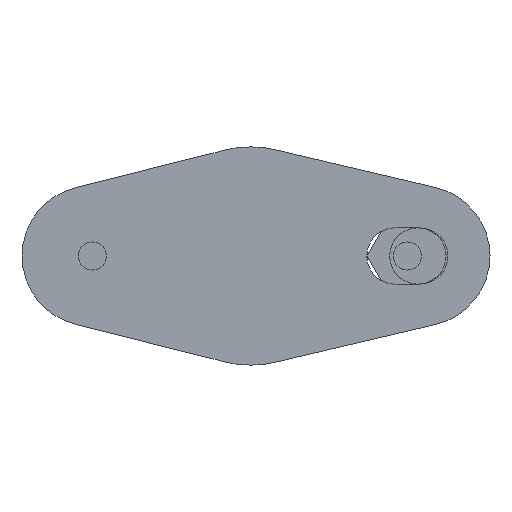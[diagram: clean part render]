
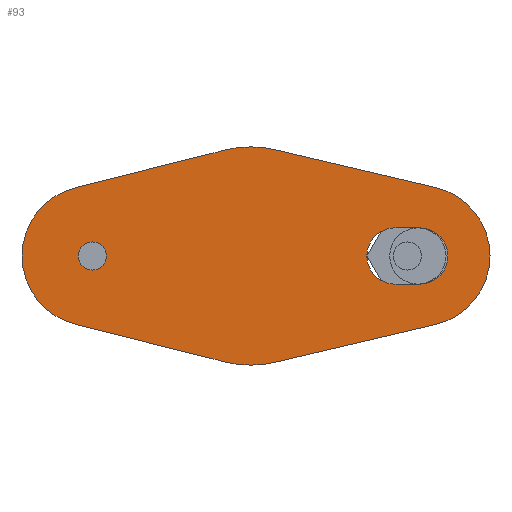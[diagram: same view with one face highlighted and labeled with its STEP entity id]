
A CAD part, front view. The second image highlights one B-rep face of the part: STEP entity #93.
In plain terms, the highlighted planar face has unit normal (0, -1, 0).
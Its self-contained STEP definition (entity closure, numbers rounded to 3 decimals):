
#93=ADVANCED_FACE('',(#179,#180,#181),#182,.F.);
#179=FACE_OUTER_BOUND('',#335,.T.);
#180=FACE_BOUND('',#336,.T.);
#181=FACE_BOUND('',#337,.T.);
#182=PLANE('',#338);
#335=EDGE_LOOP('',(#552,#553,#554,#555,#556,#557,#558,#559,#560,#561));
#336=EDGE_LOOP('',(#562,#563));
#337=EDGE_LOOP('',(#564,#565,#566,#567));
#338=AXIS2_PLACEMENT_3D('',#568,#569,#570);
#552=ORIENTED_EDGE('',*,*,#1067,.F.);
#553=ORIENTED_EDGE('',*,*,#1068,.F.);
#554=ORIENTED_EDGE('',*,*,#1069,.F.);
#555=ORIENTED_EDGE('',*,*,#1070,.F.);
#556=ORIENTED_EDGE('',*,*,#1021,.F.);
#557=ORIENTED_EDGE('',*,*,#1071,.F.);
#558=ORIENTED_EDGE('',*,*,#1072,.F.);
#559=ORIENTED_EDGE('',*,*,#1073,.F.);
#560=ORIENTED_EDGE('',*,*,#1074,.F.);
#561=ORIENTED_EDGE('',*,*,#1051,.F.);
#562=ORIENTED_EDGE('',*,*,#1028,.F.);
#563=ORIENTED_EDGE('',*,*,#1075,.F.);
#564=ORIENTED_EDGE('',*,*,#1076,.T.);
#565=ORIENTED_EDGE('',*,*,#1077,.T.);
#566=ORIENTED_EDGE('',*,*,#1078,.T.);
#567=ORIENTED_EDGE('',*,*,#1079,.T.);
#568=CARTESIAN_POINT('',(45.0,0.0,0.0));
#569=DIRECTION('',(-0.0,1.0,0.0));
#570=DIRECTION('',(1.0,0.0,0.0));
#1021=EDGE_CURVE('',#1188,#1191,#1192,.T.);
#1028=EDGE_CURVE('',#1204,#1205,#1206,.T.);
#1051=EDGE_CURVE('',#1246,#1248,#1249,.T.);
#1067=EDGE_CURVE('',#1275,#1246,#1276,.T.);
#1068=EDGE_CURVE('',#1277,#1275,#1278,.T.);
#1069=EDGE_CURVE('',#1279,#1277,#1280,.T.);
#1070=EDGE_CURVE('',#1191,#1279,#1281,.T.);
#1071=EDGE_CURVE('',#1282,#1188,#1283,.T.);
#1072=EDGE_CURVE('',#1284,#1282,#1285,.T.);
#1073=EDGE_CURVE('',#1286,#1284,#1287,.T.);
#1074=EDGE_CURVE('',#1248,#1286,#1288,.T.);
#1075=EDGE_CURVE('',#1205,#1204,#1289,.T.);
#1076=EDGE_CURVE('',#1290,#1291,#1292,.T.);
#1077=EDGE_CURVE('',#1291,#1293,#1294,.T.);
#1078=EDGE_CURVE('',#1293,#1295,#1296,.T.);
#1079=EDGE_CURVE('',#1295,#1290,#1297,.T.);
#1188=VERTEX_POINT('',#1466);
#1191=VERTEX_POINT('',#1470);
#1192=CIRCLE('',#1471,31.0);
#1204=VERTEX_POINT('',#1486);
#1205=VERTEX_POINT('',#1487);
#1206=CIRCLE('',#1488,4.0);
#1246=VERTEX_POINT('',#1540);
#1248=VERTEX_POINT('',#1543);
#1249=CIRCLE('',#1544,31.0);
#1275=VERTEX_POINT('',#1577);
#1276=CIRCLE('',#1578,31.0);
#1277=VERTEX_POINT('',#1579);
#1278=LINE('',#1580,#1581);
#1279=VERTEX_POINT('',#1582);
#1280=CIRCLE('',#1583,20.0);
#1281=LINE('',#1584,#1585);
#1282=VERTEX_POINT('',#1586);
#1283=CIRCLE('',#1587,31.0);
#1284=VERTEX_POINT('',#1588);
#1285=LINE('',#1589,#1590);
#1286=VERTEX_POINT('',#1591);
#1287=CIRCLE('',#1592,20.0);
#1288=LINE('',#1593,#1594);
#1289=CIRCLE('',#1595,4.0);
#1290=VERTEX_POINT('',#1596);
#1291=VERTEX_POINT('',#1597);
#1292=CIRCLE('',#1598,8.0);
#1293=VERTEX_POINT('',#1599);
#1294=LINE('',#1600,#1601);
#1295=VERTEX_POINT('',#1602);
#1296=CIRCLE('',#1603,8.0);
#1297=LINE('',#1604,#1605);
#1466=CARTESIAN_POINT('',(45.0,0.0,31.0));
#1470=CARTESIAN_POINT('',(52.104,0.0,30.175));
#1471=AXIS2_PLACEMENT_3D('',#1863,#1864,#1865);
#1486=CARTESIAN_POINT('',(0.0,0.0,-4.0));
#1487=CARTESIAN_POINT('',(0.,0.0,4.0));
#1488=AXIS2_PLACEMENT_3D('',#1878,#1879,#1880);
#1540=CARTESIAN_POINT('',(45.0,0.0,-31.0));
#1543=CARTESIAN_POINT('',(37.422,0.0,-30.06));
#1544=AXIS2_PLACEMENT_3D('',#1921,#1922,#1923);
#1577=CARTESIAN_POINT('',(52.104,0.0,-30.175));
#1578=AXIS2_PLACEMENT_3D('',#1955,#1956,#1957);
#1579=CARTESIAN_POINT('',(97.583,0.0,-19.468));
#1580=CARTESIAN_POINT('',(52.104,0.0,-30.175));
#1581=VECTOR('',#1958,1000.0);
#1582=CARTESIAN_POINT('',(97.583,0.0,19.468));
#1583=AXIS2_PLACEMENT_3D('',#1959,#1960,#1961);
#1584=CARTESIAN_POINT('',(52.104,0.0,30.175));
#1585=VECTOR('',#1962,1000.0);
#1586=CARTESIAN_POINT('',(37.422,0.0,30.06));
#1587=AXIS2_PLACEMENT_3D('',#1963,#1964,#1965);
#1588=CARTESIAN_POINT('',(-4.889,0.0,19.393));
#1589=CARTESIAN_POINT('',(37.422,0.0,30.06));
#1590=VECTOR('',#1966,1000.0);
#1591=CARTESIAN_POINT('',(-4.889,0.0,-19.393));
#1592=AXIS2_PLACEMENT_3D('',#1967,#1968,#1969);
#1593=CARTESIAN_POINT('',(37.422,0.0,-30.06));
#1594=VECTOR('',#1970,1000.0);
#1595=AXIS2_PLACEMENT_3D('',#1971,#1972,#1973);
#1596=CARTESIAN_POINT('',(86.0,0.0,-8.0));
#1597=CARTESIAN_POINT('',(86.0,0.0,8.0));
#1598=AXIS2_PLACEMENT_3D('',#1974,#1975,#1976);
#1599=CARTESIAN_POINT('',(93.0,0.0,8.0));
#1600=CARTESIAN_POINT('',(86.0,0.0,8.0));
#1601=VECTOR('',#1977,1000.0);
#1602=CARTESIAN_POINT('',(93.0,0.0,-8.0));
#1603=AXIS2_PLACEMENT_3D('',#1978,#1979,#1980);
#1604=CARTESIAN_POINT('',(86.0,0.0,-8.0));
#1605=VECTOR('',#1981,1000.0);
#1863=CARTESIAN_POINT('',(45.0,0.0,0.0));
#1864=DIRECTION('',(0.0,1.0,0.0));
#1865=DIRECTION('',(0.0,0.0,1.0));
#1878=CARTESIAN_POINT('',(0.0,0.0,0.0));
#1879=DIRECTION('',(0.0,-1.0,0.0));
#1880=DIRECTION('',(0.0,0.0,1.0));
#1921=CARTESIAN_POINT('',(45.0,0.0,0.0));
#1922=DIRECTION('',(0.0,1.0,0.0));
#1923=DIRECTION('',(0.0,0.0,1.0));
#1955=CARTESIAN_POINT('',(45.0,0.0,0.0));
#1956=DIRECTION('',(0.0,1.0,0.0));
#1957=DIRECTION('',(0.0,0.0,1.0));
#1958=DIRECTION('',(-0.973,-0.0,-0.229));
#1959=CARTESIAN_POINT('',(93.0,0.0,0.0));
#1960=DIRECTION('',(0.0,1.0,0.0));
#1961=DIRECTION('',(0.0,0.0,1.0));
#1962=DIRECTION('',(0.973,0.0,-0.229));
#1963=CARTESIAN_POINT('',(45.0,0.0,0.0));
#1964=DIRECTION('',(0.0,1.0,0.0));
#1965=DIRECTION('',(0.0,0.0,1.0));
#1966=DIRECTION('',(0.97,-0.0,0.244));
#1967=CARTESIAN_POINT('',(0.0,0.0,0.0));
#1968=DIRECTION('',(0.0,1.0,0.0));
#1969=DIRECTION('',(0.0,0.0,1.0));
#1970=DIRECTION('',(-0.97,0.0,0.244));
#1971=CARTESIAN_POINT('',(0.0,0.0,0.0));
#1972=DIRECTION('',(0.0,-1.0,0.0));
#1973=DIRECTION('',(0.0,0.0,1.0));
#1974=CARTESIAN_POINT('',(86.0,0.0,0.0));
#1975=DIRECTION('',(0.0,1.0,0.0));
#1976=DIRECTION('',(0.0,0.0,1.0));
#1977=DIRECTION('',(1.0,0.0,0.0));
#1978=CARTESIAN_POINT('',(93.0,0.0,0.0));
#1979=DIRECTION('',(0.0,1.0,0.0));
#1980=DIRECTION('',(0.0,0.0,1.0));
#1981=DIRECTION('',(-1.0,-0.0,-0.0));
